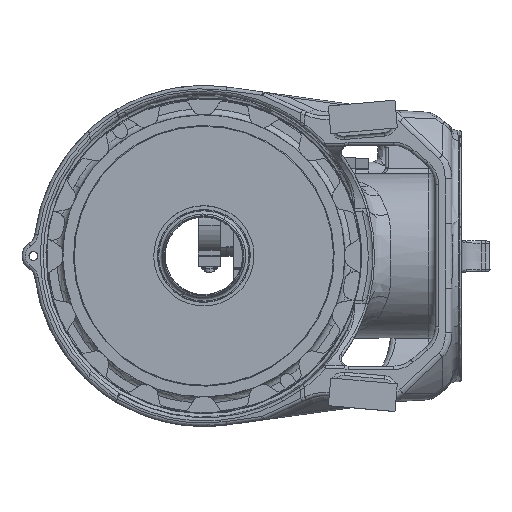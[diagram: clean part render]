
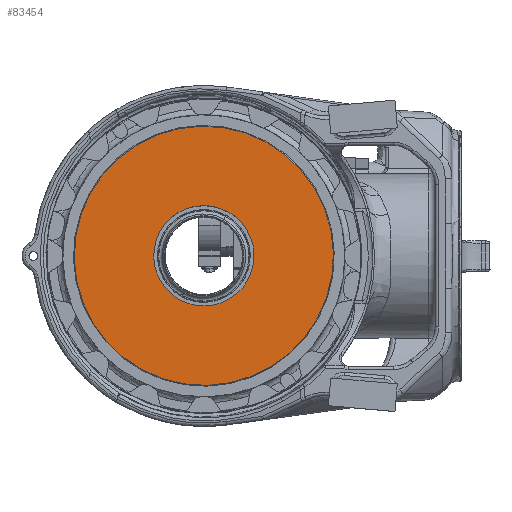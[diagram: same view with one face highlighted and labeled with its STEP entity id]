
A CAD part, top view. The second image highlights one B-rep face of the part: STEP entity #83454.
In plain terms, the highlighted planar face has unit normal (0, 0, 1).
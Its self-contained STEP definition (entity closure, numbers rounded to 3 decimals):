
#83365=AXIS2_PLACEMENT_3D('Circle Axis2P3D',#83363,#83364,$) ;
#83389=AXIS2_PLACEMENT_3D('Circle Axis2P3D',#83387,#83388,$) ;
#83430=AXIS2_PLACEMENT_3D('Plane Axis2P3D',#83427,#83428,#83429) ;
#83438=AXIS2_PLACEMENT_3D('Circle Axis2P3D',#83436,#83437,$) ;
#83447=AXIS2_PLACEMENT_3D('Circle Axis2P3D',#83445,#83446,$) ;
#83360=CARTESIAN_POINT('Vertex',(2829.885,92.934,3088.)) ;
#83363=CARTESIAN_POINT('Axis2P3D Location',(3000.,0.,3088.)) ;
#83367=CARTESIAN_POINT('Vertex',(3170.115,-92.934,3088.)) ;
#83387=CARTESIAN_POINT('Axis2P3D Location',(3000.,0.,3088.)) ;
#83427=CARTESIAN_POINT('Axis2P3D Location',(3195.,0.,3088.)) ;
#83436=CARTESIAN_POINT('Axis2P3D Location',(3000.,0.,3088.)) ;
#83440=CARTESIAN_POINT('Vertex',(2934.181,35.957,3088.)) ;
#83442=CARTESIAN_POINT('Vertex',(3065.819,-35.957,3088.)) ;
#83445=CARTESIAN_POINT('Axis2P3D Location',(3000.,0.,3088.)) ;
#83364=DIRECTION('Axis2P3D Direction',(0.,0.,-1.)) ;
#83388=DIRECTION('Axis2P3D Direction',(0.,0.,-1.)) ;
#83428=DIRECTION('Axis2P3D Direction',(0.,0.,-1.)) ;
#83429=DIRECTION('Axis2P3D XDirection',(0.,-1.,0.)) ;
#83437=DIRECTION('Axis2P3D Direction',(0.,0.,-1.)) ;
#83446=DIRECTION('Axis2P3D Direction',(0.,0.,-1.)) ;
#83433=ORIENTED_EDGE('',*,*,#83391,.F.) ;
#83434=ORIENTED_EDGE('',*,*,#83369,.F.) ;
#83451=ORIENTED_EDGE('',*,*,#83444,.T.) ;
#83452=ORIENTED_EDGE('',*,*,#83449,.T.) ;
#83453=FACE_BOUND('',#83450,.T.) ;
#83454=ADVANCED_FACE('RV-400CT.1\\\X2\FF8AFF9FFF70FF82\X0\ \X2\FF8EFF9EFF83FF9EFF68FF70\X0\',(#83435,#83453),#83431,.F.) ;
#83366=CIRCLE('generated circle',#83365,193.845) ;
#83390=CIRCLE('generated circle',#83389,193.845) ;
#83439=CIRCLE('generated circle',#83438,75.) ;
#83448=CIRCLE('generated circle',#83447,75.) ;
#83369=EDGE_CURVE('',#83361,#83368,#83366,.T.) ;
#83391=EDGE_CURVE('',#83368,#83361,#83390,.T.) ;
#83444=EDGE_CURVE('',#83441,#83443,#83439,.T.) ;
#83449=EDGE_CURVE('',#83443,#83441,#83448,.T.) ;
#83432=EDGE_LOOP('',(#83433,#83434)) ;
#83450=EDGE_LOOP('',(#83451,#83452)) ;
#83435=FACE_OUTER_BOUND('',#83432,.T.) ;
#83431=PLANE('',#83430) ;
#83361=VERTEX_POINT('',#83360) ;
#83368=VERTEX_POINT('',#83367) ;
#83441=VERTEX_POINT('',#83440) ;
#83443=VERTEX_POINT('',#83442) ;
